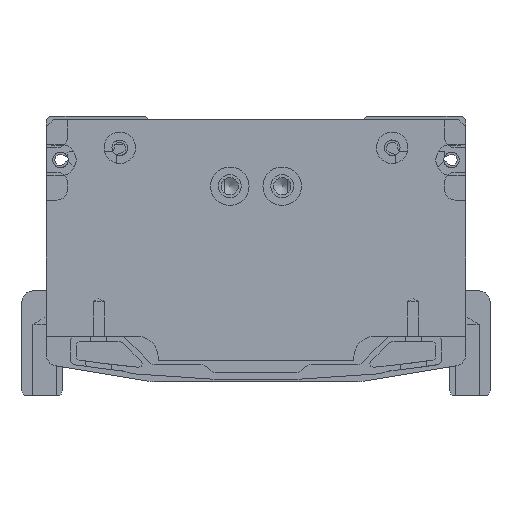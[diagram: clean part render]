
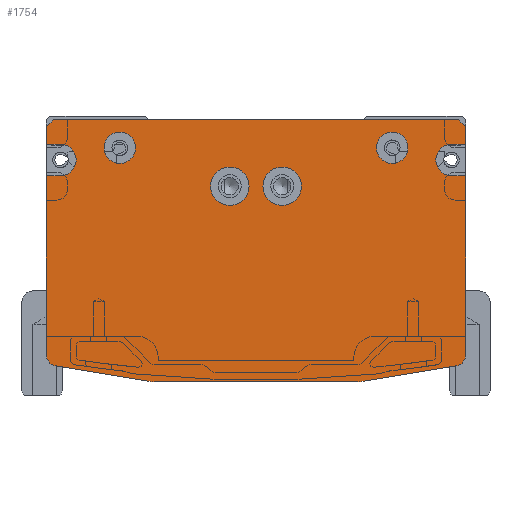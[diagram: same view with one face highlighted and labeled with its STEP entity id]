
A CAD part, front view. The second image highlights one B-rep face of the part: STEP entity #1754.
In plain terms, the highlighted planar face has unit normal (0, -1, 0).
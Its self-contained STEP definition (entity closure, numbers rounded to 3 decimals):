
#1754=ADVANCED_FACE('',(#5204,#5205,#5206,#5207,#5208),#2441,.F.);
#2441=PLANE('',#17427);
#2964=LINE('',#25312,#4088);
#2968=LINE('',#25320,#4092);
#3107=LINE('',#26240,#4231);
#3134=LINE('',#26294,#4258);
#3138=LINE('',#26302,#4262);
#3312=LINE('',#27489,#4436);
#3314=LINE('',#27492,#4438);
#3318=LINE('',#27499,#4442);
#3321=LINE('',#27508,#4445);
#3334=LINE('',#27543,#4458);
#3339=LINE('',#27557,#4463);
#3343=LINE('',#27569,#4467);
#3365=LINE('',#27631,#4489);
#3368=LINE('',#27640,#4492);
#4088=VECTOR('',#19466,1.);
#4092=VECTOR('',#19470,1.);
#4231=VECTOR('',#19947,1.);
#4258=VECTOR('',#19988,1.);
#4262=VECTOR('',#19992,1.);
#4436=VECTOR('',#20800,1.);
#4438=VECTOR('',#20804,1.);
#4442=VECTOR('',#20810,1.);
#4445=VECTOR('',#20821,1.);
#4458=VECTOR('',#20854,1.);
#4463=VECTOR('',#20867,1.);
#4467=VECTOR('',#20879,1.);
#4489=VECTOR('',#20955,1.);
#4492=VECTOR('',#20966,1.);
#5204=FACE_BOUND('',#6441,.T.);
#5205=FACE_BOUND('',#6442,.T.);
#5206=FACE_BOUND('',#6443,.T.);
#5207=FACE_BOUND('',#6444,.T.);
#5208=FACE_BOUND('',#6445,.T.);
#6441=EDGE_LOOP('',(#9537));
#6442=EDGE_LOOP('',(#9538));
#6443=EDGE_LOOP('',(#9539,#9540,#9541,#9542,#9543,#9544,#9545,#9546,#9547,
#9548,#9549,#9550,#9551,#9552,#9553,#9554,#9555,#9556,#9557,#9558));
#6444=EDGE_LOOP('',(#9559));
#6445=EDGE_LOOP('',(#9560));
#9537=ORIENTED_EDGE('',*,*,#14649,.T.);
#9538=ORIENTED_EDGE('',*,*,#14653,.T.);
#9539=ORIENTED_EDGE('',*,*,#14714,.T.);
#9540=ORIENTED_EDGE('',*,*,#14710,.F.);
#9541=ORIENTED_EDGE('',*,*,#14708,.F.);
#9542=ORIENTED_EDGE('',*,*,#14705,.F.);
#9543=ORIENTED_EDGE('',*,*,#14701,.T.);
#9544=ORIENTED_EDGE('',*,*,#14698,.T.);
#9545=ORIENTED_EDGE('',*,*,#14343,.F.);
#9546=ORIENTED_EDGE('',*,*,#14684,.T.);
#9547=ORIENTED_EDGE('',*,*,#14681,.T.);
#9548=ORIENTED_EDGE('',*,*,#14679,.F.);
#9549=ORIENTED_EDGE('',*,*,#14339,.F.);
#9550=ORIENTED_EDGE('',*,*,#14675,.T.);
#9551=ORIENTED_EDGE('',*,*,#14312,.F.);
#9552=ORIENTED_EDGE('',*,*,#14673,.T.);
#9553=ORIENTED_EDGE('',*,*,#14036,.F.);
#9554=ORIENTED_EDGE('',*,*,#14749,.T.);
#9555=ORIENTED_EDGE('',*,*,#14746,.T.);
#9556=ORIENTED_EDGE('',*,*,#14744,.F.);
#9557=ORIENTED_EDGE('',*,*,#14032,.F.);
#9558=ORIENTED_EDGE('',*,*,#14717,.T.);
#9559=ORIENTED_EDGE('',*,*,#14660,.F.);
#9560=ORIENTED_EDGE('',*,*,#14656,.F.);
#12275=VERTEX_POINT('',#25311);
#12276=VERTEX_POINT('',#25313);
#12279=VERTEX_POINT('',#25319);
#12280=VERTEX_POINT('',#25321);
#12417=VERTEX_POINT('',#26239);
#12418=VERTEX_POINT('',#26241);
#12437=VERTEX_POINT('',#26293);
#12438=VERTEX_POINT('',#26295);
#12441=VERTEX_POINT('',#26301);
#12442=VERTEX_POINT('',#26303);
#12657=VERTEX_POINT('',#27432);
#12661=VERTEX_POINT('',#27443);
#12664=VERTEX_POINT('',#27452);
#12667=VERTEX_POINT('',#27462);
#12675=VERTEX_POINT('',#27497);
#12677=VERTEX_POINT('',#27504);
#12688=VERTEX_POINT('',#27538);
#12690=VERTEX_POINT('',#27544);
#12693=VERTEX_POINT('',#27552);
#12695=VERTEX_POINT('',#27558);
#12696=VERTEX_POINT('',#27562);
#12699=VERTEX_POINT('',#27570);
#12711=VERTEX_POINT('',#27629);
#12713=VERTEX_POINT('',#27636);
#14032=EDGE_CURVE('',#12275,#12276,#2964,.T.);
#14036=EDGE_CURVE('',#12279,#12280,#2968,.T.);
#14312=EDGE_CURVE('',#12417,#12418,#3107,.T.);
#14339=EDGE_CURVE('',#12437,#12438,#3134,.T.);
#14343=EDGE_CURVE('',#12441,#12442,#3138,.T.);
#14649=EDGE_CURVE('',#12657,#12657,#16016,.T.);
#14653=EDGE_CURVE('',#12661,#12661,#16020,.T.);
#14656=EDGE_CURVE('',#12664,#12664,#16023,.T.);
#14660=EDGE_CURVE('',#12667,#12667,#16027,.T.);
#14673=EDGE_CURVE('',#12417,#12280,#3312,.T.);
#14675=EDGE_CURVE('',#12437,#12418,#3314,.T.);
#14679=EDGE_CURVE('',#12438,#12675,#3318,.T.);
#14681=EDGE_CURVE('',#12677,#12675,#16034,.T.);
#14684=EDGE_CURVE('',#12441,#12677,#3321,.T.);
#14698=EDGE_CURVE('',#12688,#12442,#16037,.T.);
#14701=EDGE_CURVE('',#12690,#12688,#3334,.T.);
#14705=EDGE_CURVE('',#12690,#12693,#16040,.T.);
#14708=EDGE_CURVE('',#12693,#12695,#3339,.T.);
#14710=EDGE_CURVE('',#12695,#12696,#16041,.T.);
#14714=EDGE_CURVE('',#12699,#12696,#3343,.T.);
#14717=EDGE_CURVE('',#12275,#12699,#16044,.T.);
#14744=EDGE_CURVE('',#12276,#12711,#3365,.T.);
#14746=EDGE_CURVE('',#12713,#12711,#16052,.T.);
#14749=EDGE_CURVE('',#12279,#12713,#3368,.T.);
#16016=CIRCLE('',#17328,5.5);
#16020=CIRCLE('',#17335,5.5);
#16023=CIRCLE('',#17341,4.5);
#16027=CIRCLE('',#17348,4.5);
#16034=CIRCLE('',#17366,4.5);
#16037=CIRCLE('',#17375,3.);
#16040=CIRCLE('',#17380,10.);
#16041=CIRCLE('',#17383,10.);
#16044=CIRCLE('',#17388,3.);
#16052=CIRCLE('',#17415,4.5);
#17328=AXIS2_PLACEMENT_3D('',#27431,#20725,#20726);
#17335=AXIS2_PLACEMENT_3D('',#27442,#20739,#20740);
#17341=AXIS2_PLACEMENT_3D('',#27451,#20751,#20752);
#17348=AXIS2_PLACEMENT_3D('',#27461,#20765,#20766);
#17366=AXIS2_PLACEMENT_3D('',#27503,#20815,#20816);
#17375=AXIS2_PLACEMENT_3D('',#27537,#20847,#20848);
#17380=AXIS2_PLACEMENT_3D('',#27551,#20861,#20862);
#17383=AXIS2_PLACEMENT_3D('',#27561,#20871,#20872);
#17388=AXIS2_PLACEMENT_3D('',#27574,#20885,#20886);
#17415=AXIS2_PLACEMENT_3D('',#27635,#20960,#20961);
#17427=AXIS2_PLACEMENT_3D('',#27657,#20991,#20992);
#19466=DIRECTION('',(0.,0.,1.));
#19470=DIRECTION('',(0.,0.,1.));
#19947=DIRECTION('',(1.,0.,0.));
#19988=DIRECTION('',(0.,0.,-1.));
#19992=DIRECTION('',(0.,0.,-1.));
#20725=DIRECTION('',(0.,1.,0.));
#20726=DIRECTION('',(1.,0.,0.));
#20739=DIRECTION('',(0.,1.,0.));
#20740=DIRECTION('',(1.,0.,0.));
#20751=DIRECTION('',(0.,-1.,0.));
#20752=DIRECTION('',(1.,0.,0.));
#20765=DIRECTION('',(0.,-1.,0.));
#20766=DIRECTION('',(1.,0.,0.));
#20800=DIRECTION('',(-0.707,0.,-0.707));
#20804=DIRECTION('',(-0.707,0.,0.707));
#20810=DIRECTION('',(-1.,0.,0.));
#20815=DIRECTION('',(0.,1.,0.));
#20816=DIRECTION('',(0.,0.,-1.));
#20821=DIRECTION('',(-1.,0.,0.));
#20847=DIRECTION('',(0.,-1.,0.));
#20848=DIRECTION('',(0.164,0.,-0.986));
#20854=DIRECTION('',(0.986,0.,0.164));
#20861=DIRECTION('',(0.,1.,0.));
#20862=DIRECTION('',(0.164,0.,-0.986));
#20867=DIRECTION('',(-1.,0.,0.));
#20871=DIRECTION('',(0.,1.,0.));
#20872=DIRECTION('',(0.,0.,-1.));
#20879=DIRECTION('',(0.986,0.,-0.164));
#20885=DIRECTION('',(0.,-1.,0.));
#20886=DIRECTION('',(-1.,0.,0.));
#20955=DIRECTION('',(1.,0.,0.));
#20960=DIRECTION('',(0.,1.,0.));
#20961=DIRECTION('',(0.,0.,1.));
#20966=DIRECTION('',(1.,0.,0.));
#20991=DIRECTION('',(0.,1.,0.));
#20992=DIRECTION('',(1.,0.,0.));
#25311=CARTESIAN_POINT('',(-60.,-2012.,-69.459));
#25312=CARTESIAN_POINT('',(-60.,-2012.,-69.459));
#25313=CARTESIAN_POINT('',(-60.,-2012.,-18.));
#25319=CARTESIAN_POINT('',(-60.,-2012.,-9.));
#25320=CARTESIAN_POINT('',(-60.,-2012.,-9.));
#25321=CARTESIAN_POINT('',(-60.,-2012.,-4.));
#26239=CARTESIAN_POINT('',(-58.,-2012.,-2.));
#26240=CARTESIAN_POINT('',(-58.,-2012.,-2.));
#26241=CARTESIAN_POINT('',(58.,-2012.,-2.));
#26293=CARTESIAN_POINT('',(60.,-2012.,-4.));
#26294=CARTESIAN_POINT('',(60.,-2012.,-4.));
#26295=CARTESIAN_POINT('',(60.,-2012.,-9.));
#26301=CARTESIAN_POINT('',(60.,-2012.,-18.));
#26302=CARTESIAN_POINT('',(60.,-2012.,-18.));
#26303=CARTESIAN_POINT('',(60.,-2012.,-69.459));
#27431=CARTESIAN_POINT('',(7.5,-2012.,-21.));
#27432=CARTESIAN_POINT('',(13.,-2012.,-21.));
#27442=CARTESIAN_POINT('',(-7.5,-2012.,-21.));
#27443=CARTESIAN_POINT('',(-2.,-2012.,-21.));
#27451=CARTESIAN_POINT('',(-39.,-2012.,-10.));
#27452=CARTESIAN_POINT('',(-34.5,-2012.,-10.));
#27461=CARTESIAN_POINT('',(39.,-2012.,-10.));
#27462=CARTESIAN_POINT('',(43.5,-2012.,-10.));
#27489=CARTESIAN_POINT('',(-58.,-2012.,-2.));
#27492=CARTESIAN_POINT('',(60.,-2012.,-4.));
#27497=CARTESIAN_POINT('',(56.,-2012.,-9.));
#27499=CARTESIAN_POINT('',(60.,-2012.,-9.));
#27503=CARTESIAN_POINT('',(56.,-2012.,-13.5));
#27504=CARTESIAN_POINT('',(56.,-2012.,-18.));
#27508=CARTESIAN_POINT('',(60.,-2012.,-18.));
#27537=CARTESIAN_POINT('',(57.,-2012.,-69.459));
#27538=CARTESIAN_POINT('',(57.493,-2012.,-72.418));
#27543=CARTESIAN_POINT('',(30.816,-2012.,-76.864));
#27544=CARTESIAN_POINT('',(30.816,-2012.,-76.864));
#27551=CARTESIAN_POINT('',(29.172,-2012.,-67.));
#27552=CARTESIAN_POINT('',(29.172,-2012.,-77.));
#27557=CARTESIAN_POINT('',(29.172,-2012.,-77.));
#27558=CARTESIAN_POINT('',(-29.172,-2012.,-77.));
#27561=CARTESIAN_POINT('',(-29.172,-2012.,-67.));
#27562=CARTESIAN_POINT('',(-30.816,-2012.,-76.864));
#27569=CARTESIAN_POINT('',(-57.493,-2012.,-72.418));
#27570=CARTESIAN_POINT('',(-57.493,-2012.,-72.418));
#27574=CARTESIAN_POINT('',(-57.,-2012.,-69.459));
#27629=CARTESIAN_POINT('',(-56.,-2012.,-18.));
#27631=CARTESIAN_POINT('',(-60.,-2012.,-18.));
#27635=CARTESIAN_POINT('',(-56.,-2012.,-13.5));
#27636=CARTESIAN_POINT('',(-56.,-2012.,-9.));
#27640=CARTESIAN_POINT('',(-60.,-2012.,-9.));
#27657=CARTESIAN_POINT('',(0.,-2012.,-2.));
